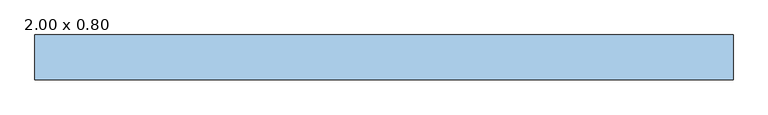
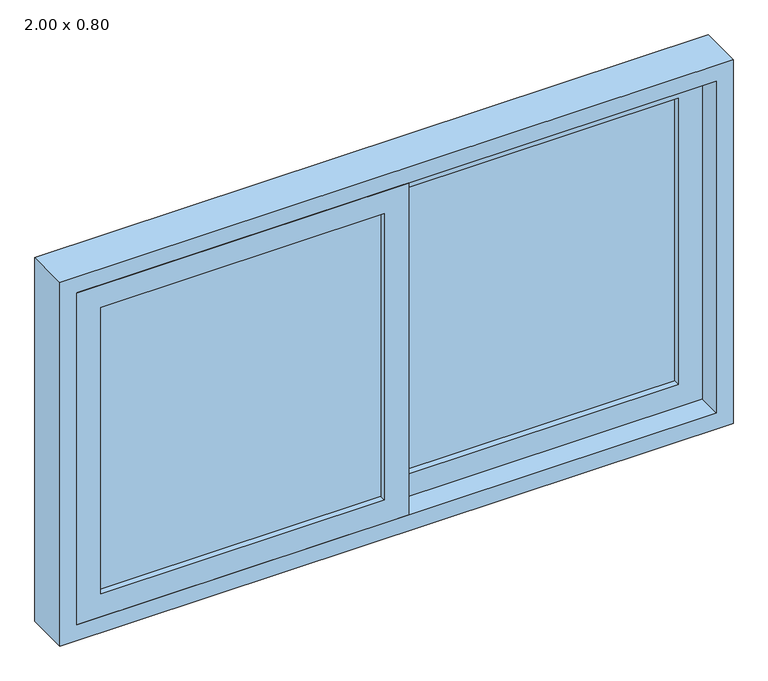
"""IFC4 building model written with IfcOpenShell, lengths in millimetres: window geometry, Janela de correr - 2 Painéis : 2.00 x 0.80."""

import ifcopenshell
import ifcopenshell.guid

model = None  # the IFC model being written
_history = None  # IfcOwnerHistory: only IFC2X3 demands one
_inside = {}  # id of a spatial element -> (the spatial element, [elements in it])
_under = {}  # id of a project, library or spatial element -> (it, [spatial elements below it])
_declared = {}  # id of a project -> (the project, [libraries it declares])
_typed = {}  # id of a type object -> (the type object, [elements of that type])
_made_of = {}  # id of a material, layer set ... -> (it, [elements and type objects made of it])


def new_model(schema):
    """Start an empty IFC model of exactly this schema.

    Asked for "IFC4X3", IfcOpenShell would pick the latest addendum, in which some entities
    have other attributes; the version numbers below select the first issue.
    IFC2X3 requires an IfcOwnerHistory on every rooted entity: one is made here for all.
    """
    global model, _history
    if schema == "IFC4X3":
        model = ifcopenshell.file(schema_version=(4, 3, 0, 0))
    else:
        model = ifcopenshell.file(schema=schema)
    _inside.clear()
    _under.clear()
    _declared.clear()
    _typed.clear()
    _made_of.clear()
    _history = None
    if model.schema == "IFC2X3":
        org = make("IfcOrganization", Name="unknown")
        user = make(
            "IfcPersonAndOrganization",
            ThePerson=make("IfcPerson", FamilyName="unknown"),
            TheOrganization=org,
        )
        app = make(
            "IfcApplication",
            ApplicationDeveloper=org,
            Version="unknown",
            ApplicationFullName="unknown",
            ApplicationIdentifier="unknown",
        )
        _history = make(
            "IfcOwnerHistory",
            OwningUser=user,
            OwningApplication=app,
            ChangeAction="ADDED",
            CreationDate=0,
        )
    return model


def make(cls, **values):
    """One entity of the class cls with the attributes given. An attribute that is None is left unset."""
    return model.create_entity(
        cls, **{name: value for name, value in values.items() if value is not None}
    )


def rooted(cls, **values):
    """An entity with a GlobalId (a new one), such as an element, a storey or a relation."""
    return make(cls, GlobalId=ifcopenshell.guid.new(), OwnerHistory=_history, **values)


def si_unit(unit_type, name, prefix=None):
    """IfcSIUnit, for example si_unit("LENGTHUNIT", "METRE", prefix="MILLI")."""
    return make("IfcSIUnit", UnitType=unit_type, Prefix=prefix, Name=name)


def assignment(units):
    """IfcUnitAssignment: the units of a project."""
    return None if units is None else make("IfcUnitAssignment", Units=units)


def point(xyz):
    """IfcCartesianPoint."""
    return None if xyz is None else make("IfcCartesianPoint", Coordinates=xyz)


def direction(xyz):
    """IfcDirection."""
    return None if xyz is None else make("IfcDirection", DirectionRatios=xyz)


def frame(location, z_axis=None, x_axis=None):
    """IfcAxis2Placement3D, a coordinate frame: its origin and axes. An axis left out is left unset."""
    return make(
        "IfcAxis2Placement3D",
        Location=point(location),
        Axis=direction(z_axis),
        RefDirection=direction(x_axis),
    )


def origin():
    """The frame at (0, 0, 0) with its axes left unset."""
    return frame((0.0, 0.0, 0.0))


def place(relative_to, where):
    """IfcLocalPlacement: puts the frame where relative to a parent placement (None: the world)."""
    return make(
        "IfcLocalPlacement", PlacementRelTo=relative_to, RelativePlacement=where
    )


def context(
    kind, dimensions, precision=None, world=None, true_north=None, identifier=None
):
    """IfcGeometricRepresentationContext, for example the 3D "Model" context."""
    return make(
        "IfcGeometricRepresentationContext",
        ContextIdentifier=identifier,
        ContextType=kind,
        CoordinateSpaceDimension=dimensions,
        Precision=precision,
        WorldCoordinateSystem=world,
        TrueNorth=true_north,
    )


def project(units=None, contexts=None):
    """IfcProject with its units and contexts."""
    return rooted(
        "IfcProject",
        Name="project",
        RepresentationContexts=contexts,
        UnitsInContext=assignment(units),
    )


def spatial(cls, under=None, at=None, **own):
    """A site, building, storey or space (cls), placed at a placement, below another one or the project."""
    s = rooted(cls, ObjectPlacement=at, **own)
    if under is not None:
        _under.setdefault(under.id(), (under, []))[1].append(s)
    return s


def polyline(points):
    """IfcPolyline through the points."""
    return make("IfcPolyline", Points=[point(p) for p in points])


def outline(outer, holes=None, kind="AREA"):
    """IfcArbitraryClosedProfileDef: a profile drawn as a closed curve; with holes, ...WithVoids."""
    if holes is None:
        return make("IfcArbitraryClosedProfileDef", ProfileType=kind, OuterCurve=outer)
    return make(
        "IfcArbitraryProfileDefWithVoids",
        ProfileType=kind,
        OuterCurve=outer,
        InnerCurves=holes,
    )


def extrude(swept, where, along, depth):
    """IfcExtrudedAreaSolid: the profile swept, set in the frame where, extruded along a direction by depth."""
    return make(
        "IfcExtrudedAreaSolid",
        SweptArea=swept,
        Position=where,
        ExtrudedDirection=direction(along),
        Depth=depth,
    )


def shape(context_of_items, identifier, shape_type, items):
    """IfcShapeRepresentation: the items that make up one representation, for example the "Body"."""
    return make(
        "IfcShapeRepresentation",
        ContextOfItems=context_of_items,
        RepresentationIdentifier=identifier,
        RepresentationType=shape_type,
        Items=items,
    )


def source(mapping_origin, context_of_items, identifier, shape_type, items):
    """IfcRepresentationMap: a shape defined once, which mapped items show again and again."""
    return make(
        "IfcRepresentationMap",
        MappingOrigin=mapping_origin,
        MappedRepresentation=shape(context_of_items, identifier, shape_type, items),
    )


def transform(
    local_origin,
    x_axis=None,
    y_axis=None,
    z_axis=None,
    scale=None,
    scale2=None,
    scale3=None,
    uniform=True,
):
    """IfcCartesianTransformationOperator3D, or its non-uniform kind. x_axis, y_axis, z_axis: its Axis1, 2, 3."""
    if uniform:
        return make(
            "IfcCartesianTransformationOperator3D",
            Axis1=direction(x_axis),
            Axis2=direction(y_axis),
            LocalOrigin=point(local_origin),
            Scale=scale,
            Axis3=direction(z_axis),
        )
    return make(
        "IfcCartesianTransformationOperator3DnonUniform",
        Axis1=direction(x_axis),
        Axis2=direction(y_axis),
        LocalOrigin=point(local_origin),
        Scale=scale,
        Axis3=direction(z_axis),
        Scale2=scale2,
        Scale3=scale3,
    )


def mapped(mapping_source, mapping_target):
    """IfcMappedItem: shows the shape of a source again, moved by a transform."""
    return make(
        "IfcMappedItem", MappingSource=mapping_source, MappingTarget=mapping_target
    )


def made_of(thing, what):
    """Note that an element or type object is made of a material, layer set ...; save() writes the relation."""
    if what is not None:
        _made_of.setdefault(what.id(), (what, []))[1].append(thing)
    return thing


def element(
    cls,
    number,
    at=None,
    inside=None,
    cuts=None,
    type_object=None,
    material=None,
    context=None,
    identifier="Body",
    shape_type=None,
    held_by="IfcProductDefinitionShape",
    body=None,
    shapes=None,
    **own,
):
    """One element of the class cls, such as IfcWall. Its Tag is "e" and its number.

    at: its placement. inside: the storey or other place that contains it. cuts: it is an
    opening in that element (IfcRelVoidsElement). A single representation is given by context,
    identifier, shape_type and body (its items); several are given by shapes. held_by: the class
    of the entity that holds the representations. save() writes the other relations.
    """
    e = rooted(cls, Tag="e%d" % number, ObjectPlacement=at, **own)
    if body is not None:
        shapes = [shape(context, identifier, shape_type, body)]
    if shapes is not None:
        e.Representation = make(held_by, Representations=shapes)
    if inside is not None:
        _inside.setdefault(inside.id(), (inside, []))[1].append(e)
    if cuts is not None:
        rooted(
            "IfcRelVoidsElement", RelatingBuildingElement=cuts, RelatedOpeningElement=e
        )
    if type_object is not None:
        _typed.setdefault(type_object.id(), (type_object, []))[1].append(e)
    return made_of(e, material)


def aggregate(whole, parts):
    """IfcRelAggregates: a whole, such as a stair, and the parts it consists of."""
    return rooted("IfcRelAggregates", RelatingObject=whole, RelatedObjects=parts)


def save(model, path):
    """Write the relations noted so far, then the file.

    IfcRelAggregates (storeys below a building ...), IfcRelContainedInSpatialStructure (elements
    in a storey), IfcRelDefinesByType, IfcRelAssociatesMaterial and IfcRelDeclares: one each for
    every whole, place, type object, material and project.
    """
    for whole, parts in _under.values():
        aggregate(whole, parts)
    for where, things in _inside.values():
        rooted(
            "IfcRelContainedInSpatialStructure",
            RelatedElements=things,
            RelatingStructure=where,
        )
    for kind, things in _typed.values():
        rooted("IfcRelDefinesByType", RelatedObjects=things, RelatingType=kind)
    for what, things in _made_of.values():
        rooted("IfcRelAssociatesMaterial", RelatedObjects=things, RelatingMaterial=what)
    for by, libraries in _declared.values():
        rooted("IfcRelDeclares", RelatingContext=by, RelatedDefinitions=libraries)
    model.write(path)


def window_2_00_x_0_80_a1bbb97e(model_context):
    return source(origin(), model_context, "Body", "SweptSolid", [
        extrude(outline(polyline([(685.0, -25.0), (685.0, 665.0), (1415.0, 665.0), (1415.0, -25.0), (685.0, -25.0)]), holes=[polyline([(1365.0, 25.0), (1365.0, 615.0), (735.0, 615.0), (735.0, 25.0), (1365.0, 25.0)])]), frame((0.0, -25.0, 0.0), z_axis=(0.0, 1.0, 0.0), x_axis=(0.0, 0.0, 1.0)), (0.0, 0.0, 1.0), 40.0),
        extrude(outline(polyline([(1415.0, 25.0), (1415.0, -665.0), (685.0, -665.0), (685.0, 25.0), (1415.0, 25.0)]), holes=[polyline([(735.0, -25.0), (735.0, -615.0), (1365.0, -615.0), (1365.0, -25.0), (735.0, -25.0)])]), frame((0.0, -75.0, 0.0), z_axis=(0.0, 1.0, 0.0), x_axis=(0.0, 0.0, 1.0)), (0.0, 0.0, 1.0), 40.0),
        extrude(outline(polyline([(1450.0, 700.0), (1450.0, -700.0), (650.0, -700.0), (650.0, 700.0), (1450.0, 700.0)]), holes=[polyline([(685.0, 665.0), (685.0, -665.0), (1415.0, -665.0), (1415.0, 665.0), (685.0, 665.0)])]), frame((0.0, -75.0, 0.0), z_axis=(0.0, 1.0, 0.0), x_axis=(0.0, 0.0, 1.0)), (0.0, 0.0, 1.0), 90.0),
        extrude(outline(polyline([(25.0, 2.0), (615.0, 2.0), (615.0, -12.0), (25.0, -12.0), (25.0, 2.0)])), frame((0.0, 0.0, 735.0), z_axis=(0.0, 0.0, 1.0), x_axis=(1.0, 0.0, 0.0)), (0.0, 0.0, 1.0), 630.0),
        extrude(outline(polyline([(-615.0, -48.0), (-25.0, -48.0), (-25.0, -62.0), (-615.0, -62.0), (-615.0, -48.0)])), frame((0.0, 0.0, 735.0), z_axis=(0.0, 0.0, 1.0), x_axis=(1.0, 0.0, 0.0)), (0.0, 0.0, 1.0), 630.0),
    ])


if __name__ == "__main__":
    model = new_model("IFC4")
    model_context = context("Model", 3, world=origin())
    ifc_project = project(units=[si_unit("LENGTHUNIT", "METRE", prefix="MILLI")], contexts=[model_context])
    site = spatial("IfcSite", under=ifc_project)
    building = spatial("IfcBuilding", under=site)
    placement = place(None, origin())
    window_2_00_x_0_80_shape = window_2_00_x_0_80_a1bbb97e(model_context)
    element("IfcWindow", 1, ObjectType="Janela de correr - 2 Painéis : 2.00 x 0.80", at=placement, inside=building, context=model_context, shape_type="MappedRepresentation", body=[
        mapped(window_2_00_x_0_80_shape, transform((0.0, 0.0, 0.0), x_axis=(1.0, 0.0, 0.0), y_axis=(0.0, 1.0, 0.0), z_axis=(0.0, 0.0, 1.0))),
    ])
    save(model, "model.ifc")
